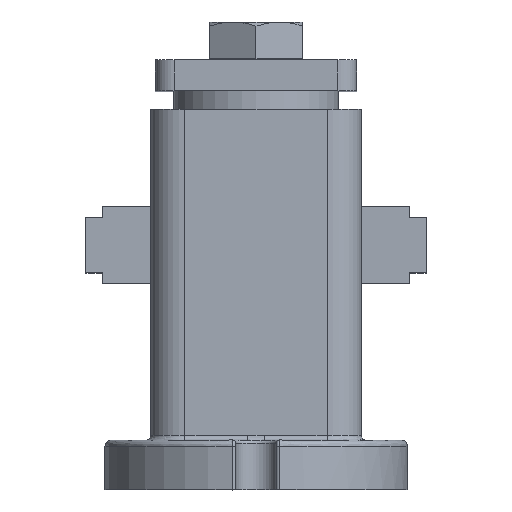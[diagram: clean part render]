
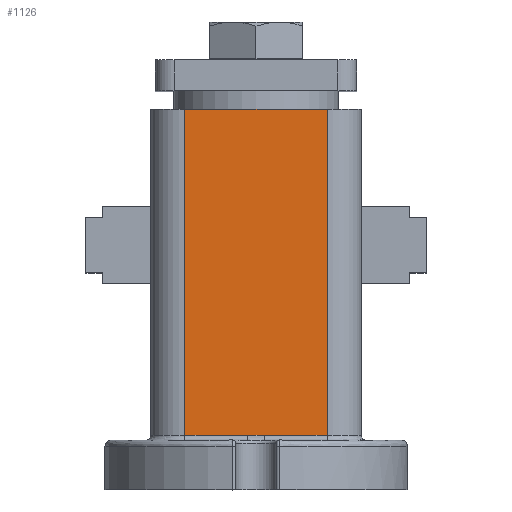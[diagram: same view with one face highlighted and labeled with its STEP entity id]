
A CAD part, top view. The second image highlights one B-rep face of the part: STEP entity #1126.
In plain terms, the highlighted planar face has unit normal (0, 0, 1).
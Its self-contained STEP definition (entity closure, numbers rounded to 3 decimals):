
#24 = CARTESIAN_POINT ( 'NONE',  ( 1.935, 1.489, 34. ) ) ;
#48 = CARTESIAN_POINT ( 'NONE',  ( 1.146, 1.467, 34. ) ) ;
#257 = ORIENTED_EDGE ( 'NONE', *, *, #5277, .T. ) ;
#539 = CARTESIAN_POINT ( 'NONE',  ( 1.895, 1.488, 34. ) ) ;
#563 = CARTESIAN_POINT ( 'NONE',  ( 1.752, 1.484, 34. ) ) ;
#647 = CARTESIAN_POINT ( 'NONE',  ( -0.05, 1.45, 34. ) ) ;
#847 = CARTESIAN_POINT ( 'NONE',  ( -34., 1.5, 34. ) ) ;
#1055 = CARTESIAN_POINT ( 'NONE',  ( -23., 1.5, 34. ) ) ;
#1126 = ADVANCED_FACE ( 'NONE', ( #1752 ), #2817, .T. ) ;
#1160 = CARTESIAN_POINT ( 'NONE',  ( -1.666, 1.482, 34. ) ) ;
#1181 = CARTESIAN_POINT ( 'NONE',  ( 1.852, 1.486, 34. ) ) ;
#1237 = CARTESIAN_POINT ( 'NONE',  ( -2.196, 1.495, 34. ) ) ;
#1263 = CARTESIAN_POINT ( 'NONE',  ( 0.467, 1.452, 34. ) ) ;
#1521 = DIRECTION ( 'NONE',  ( 0., 0., 1. ) ) ;
#1655 = CARTESIAN_POINT ( 'NONE',  ( -34., 1.5, 34. ) ) ;
#1752 = FACE_OUTER_BOUND ( 'NONE', #4975, .T. ) ;
#1805 = CARTESIAN_POINT ( 'NONE',  ( 0.177, 1.449, 34. ) ) ;
#1838 = CARTESIAN_POINT ( 'NONE',  ( -2.693, 1.5, 34. ) ) ;
#2262 = EDGE_CURVE ( 'NONE', #5800, #4585, #7050, .T. ) ;
#2292 = CARTESIAN_POINT ( 'NONE',  ( -23., 107., 34. ) ) ;
#2392 = CARTESIAN_POINT ( 'NONE',  ( 1.239, 1.469, 34. ) ) ;
#2478 = ORIENTED_EDGE ( 'NONE', *, *, #5868, .T. ) ;
#2652 = AXIS2_PLACEMENT_3D ( 'NONE', #5100, #1521, #2714 ) ;
#2714 = DIRECTION ( 'NONE',  ( 1., 0., 0. ) ) ;
#2817 = PLANE ( 'NONE',  #2652 ) ;
#2936 = CARTESIAN_POINT ( 'NONE',  ( -1.381, 1.473, 34. ) ) ;
#2994 = CARTESIAN_POINT ( 'NONE',  ( -1.046, 1.463, 34. ) ) ;
#3019 = CARTESIAN_POINT ( 'NONE',  ( 2.457, 1.5, 34. ) ) ;
#3075 = VECTOR ( 'NONE', #7048, 1000. ) ;
#3208 = DIRECTION ( 'NONE',  ( 0., 1., 0. ) ) ;
#3211 = EDGE_CURVE ( 'NONE', #5202, #5800, #7219, .T. ) ;
#3244 = VERTEX_POINT ( 'NONE', #2292 ) ;
#3341 = EDGE_CURVE ( 'NONE', #3244, #5202, #7039, .T. ) ;
#3530 = VECTOR ( 'NONE', #4641, 1000. ) ;
#3549 = CARTESIAN_POINT ( 'NONE',  ( 1.056, 1.464, 34. ) ) ;
#3572 = CARTESIAN_POINT ( 'NONE',  ( -2.014, 1.491, 34. ) ) ;
#3597 = CARTESIAN_POINT ( 'NONE',  ( 1.923, 1.488, 34. ) ) ;
#3789 = VERTEX_POINT ( 'NONE', #5897 ) ;
#4039 = CARTESIAN_POINT ( 'NONE',  ( 2.693, 1.5, 34. ) ) ;
#4129 = CARTESIAN_POINT ( 'NONE',  ( -0.011, 1.45, 34. ) ) ;
#4153 = CARTESIAN_POINT ( 'NONE',  ( -1.959, 1.489, 34. ) ) ;
#4206 = CARTESIAN_POINT ( 'NONE',  ( -2.421, 1.499, 34. ) ) ;
#4453 = DIRECTION ( 'NONE',  ( 1., 0., 0. ) ) ;
#4536 = CARTESIAN_POINT ( 'NONE',  ( -2.693, 1.5, 34. ) ) ;
#4585 = VERTEX_POINT ( 'NONE', #4039 ) ;
#4641 = DIRECTION ( 'NONE',  ( 1., 0., 0. ) ) ;
#4675 = LINE ( 'NONE', #5884, #3075 ) ;
#4719 = CARTESIAN_POINT ( 'NONE',  ( -1.837, 1.486, 34. ) ) ;
#4749 = CARTESIAN_POINT ( 'NONE',  ( -0.356, 1.451, 34. ) ) ;
#4777 = CARTESIAN_POINT ( 'NONE',  ( -0.721, 1.455, 34. ) ) ;
#4975 = EDGE_LOOP ( 'NONE', ( #7592, #5392, #7322, #2478, #5850, #257 ) ) ;
#5100 = CARTESIAN_POINT ( 'NONE',  ( -34., 0., 34. ) ) ;
#5202 = VERTEX_POINT ( 'NONE', #1055 ) ;
#5277 = EDGE_CURVE ( 'NONE', #3789, #3244, #4675, .T. ) ;
#5340 = CARTESIAN_POINT ( 'NONE',  ( -0.088, 1.45, 34. ) ) ;
#5364 = CARTESIAN_POINT ( 'NONE',  ( -1.988, 1.49, 34. ) ) ;
#5392 = ORIENTED_EDGE ( 'NONE', *, *, #3211, .T. ) ;
#5413 = DIRECTION ( 'NONE',  ( 0., -1., 0. ) ) ;
#5418 = CARTESIAN_POINT ( 'NONE',  ( -0.177, 1.45, 34. ) ) ;
#5428 = LINE ( 'NONE', #1655, #3530 ) ;
#5436 = VECTOR ( 'NONE', #5413, 1000. ) ;
#5637 = VECTOR ( 'NONE', #4453, 1000. ) ;
#5800 = VERTEX_POINT ( 'NONE', #4536 ) ;
#5850 = ORIENTED_EDGE ( 'NONE', *, *, #7162, .T. ) ;
#5868 = EDGE_CURVE ( 'NONE', #4585, #6041, #5428, .T. ) ;
#5878 = VECTOR ( 'NONE', #3208, 1000. ) ;
#5884 = CARTESIAN_POINT ( 'NONE',  ( -34., 107., 34. ) ) ;
#5897 = CARTESIAN_POINT ( 'NONE',  ( 23., 107., 34. ) ) ;
#5944 = CARTESIAN_POINT ( 'NONE',  ( -2.076, 1.492, 34. ) ) ;
#5972 = CARTESIAN_POINT ( 'NONE',  ( -2.59, 1.5, 34. ) ) ;
#6002 = CARTESIAN_POINT ( 'NONE',  ( 2.693, 1.5, 34. ) ) ;
#6041 = VERTEX_POINT ( 'NONE', #7529 ) ;
#6168 = LINE ( 'NONE', #6806, #5878 ) ;
#6555 = CARTESIAN_POINT ( 'NONE',  ( 2.21, 1.496, 34. ) ) ;
#6580 = CARTESIAN_POINT ( 'NONE',  ( -1.495, 1.477, 34. ) ) ;
#6602 = CARTESIAN_POINT ( 'NONE',  ( -1.322, 1.472, 34. ) ) ;
#6627 = CARTESIAN_POINT ( 'NONE',  ( 1.381, 1.473, 34. ) ) ;
#6806 = CARTESIAN_POINT ( 'NONE',  ( 23., 0., 34. ) ) ;
#7039 = LINE ( 'NONE', #7143, #5436 ) ;
#7048 = DIRECTION ( 'NONE',  ( -1., 0., 0. ) ) ;
#7050 = B_SPLINE_CURVE_WITH_KNOTS ( 'NONE', 3,
 ( #1838, #5972, #4206, #1237, #5944, #3572, #5364, #7231, #4153, #4719, #1160, #6580, #2936, #6602, #2994, #4777, #4749, #5418, #5340, #647, #7145, #4129, #1805, #1263, #7172, #3549, #48, #7200, #2392, #6627, #7122, #563, #1181, #539, #3597, #24, #6555, #3019, #6002 ),
 .UNSPECIFIED., .F., .F.,
 ( 4, 1, 1, 1, 1, 2, 2, 1, 2, 2, 1, 1, 1, 1, 2, 2, 1, 1, 1, 2, 2, 1, 1, 1, 2, 2, 4 ),
 ( 0., 0.062, 0.094, 0.109, 0.117, 0.121, 0.125, 0.187, 0.219, 0.25, 0.375, 0.437, 0.469, 0.484, 0.492, 0.5, 0.625, 0.687, 0.719, 0.734, 0.75, 0.812, 0.844, 0.859, 0.867, 0.875, 1. ),
 .UNSPECIFIED. ) ;
#7122 = CARTESIAN_POINT ( 'NONE',  ( 1.552, 1.478, 34. ) ) ;
#7143 = CARTESIAN_POINT ( 'NONE',  ( -23., 0., 34. ) ) ;
#7145 = CARTESIAN_POINT ( 'NONE',  ( -0.025, 1.45, 34. ) ) ;
#7162 = EDGE_CURVE ( 'NONE', #6041, #3789, #6168, .T. ) ;
#7172 = CARTESIAN_POINT ( 'NONE',  ( 0.852, 1.46, 34. ) ) ;
#7200 = CARTESIAN_POINT ( 'NONE',  ( 1.206, 1.468, 34. ) ) ;
#7219 = LINE ( 'NONE', #847, #5637 ) ;
#7231 = CARTESIAN_POINT ( 'NONE',  ( -1.97, 1.49, 34. ) ) ;
#7322 = ORIENTED_EDGE ( 'NONE', *, *, #2262, .T. ) ;
#7529 = CARTESIAN_POINT ( 'NONE',  ( 23., 1.5, 34. ) ) ;
#7592 = ORIENTED_EDGE ( 'NONE', *, *, #3341, .T. ) ;
